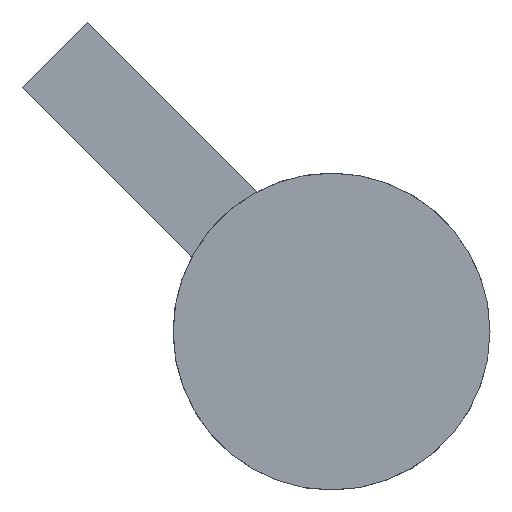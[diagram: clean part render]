
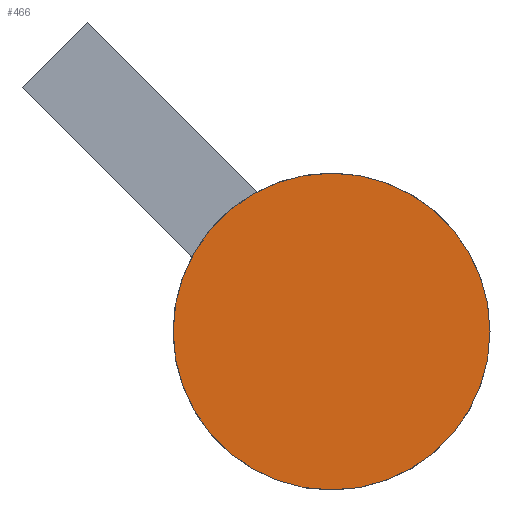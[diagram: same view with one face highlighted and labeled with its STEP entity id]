
A CAD part, top view. The second image highlights one B-rep face of the part: STEP entity #466.
In plain terms, the highlighted planar face has unit normal (0, 0, 1).
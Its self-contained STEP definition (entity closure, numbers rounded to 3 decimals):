
#24 = VERTEX_POINT('',#25);
#25 = CARTESIAN_POINT('',(2.75,0.,0.4));
#32 = CYLINDRICAL_SURFACE('',#33,2.75);
#33 = AXIS2_PLACEMENT_3D('',#34,#35,#36);
#34 = CARTESIAN_POINT('',(0.,0.,0.));
#35 = DIRECTION('',(0.,0.,1.));
#36 = DIRECTION('',(1.,0.,-0.));
#51 = EDGE_CURVE('',#24,#24,#52,.T.);
#52 = SURFACE_CURVE('',#53,(#58,#65),.PCURVE_S1.);
#53 = CIRCLE('',#54,2.75);
#54 = AXIS2_PLACEMENT_3D('',#55,#56,#57);
#55 = CARTESIAN_POINT('',(0.,0.,0.4));
#56 = DIRECTION('',(0.,0.,1.));
#57 = DIRECTION('',(1.,0.,-0.));
#58 = PCURVE('',#32,#59);
#59 = DEFINITIONAL_REPRESENTATION('',(#60),#64);
#60 = LINE('',#61,#62);
#61 = CARTESIAN_POINT('',(0.,0.4));
#62 = VECTOR('',#63,1.);
#63 = DIRECTION('',(1.,0.));
#64 = ( GEOMETRIC_REPRESENTATION_CONTEXT(2) 
PARAMETRIC_REPRESENTATION_CONTEXT() REPRESENTATION_CONTEXT('2D SPACE',''
  ) );
#65 = PCURVE('',#66,#71);
#66 = PLANE('',#67);
#67 = AXIS2_PLACEMENT_3D('',#68,#69,#70);
#68 = CARTESIAN_POINT('',(0.,0.,0.4));
#69 = DIRECTION('',(0.,0.,1.));
#70 = DIRECTION('',(1.,0.,-0.));
#71 = DEFINITIONAL_REPRESENTATION('',(#72),#76);
#72 = CIRCLE('',#73,2.75);
#73 = AXIS2_PLACEMENT_2D('',#74,#75);
#74 = CARTESIAN_POINT('',(0.,0.));
#75 = DIRECTION('',(1.,0.));
#76 = ( GEOMETRIC_REPRESENTATION_CONTEXT(2) 
PARAMETRIC_REPRESENTATION_CONTEXT() REPRESENTATION_CONTEXT('2D SPACE',''
  ) );
#466 = ADVANCED_FACE('',(#467),#66,.T.);
#467 = FACE_BOUND('',#468,.T.);
#468 = EDGE_LOOP('',(#469));
#469 = ORIENTED_EDGE('',*,*,#51,.T.);
